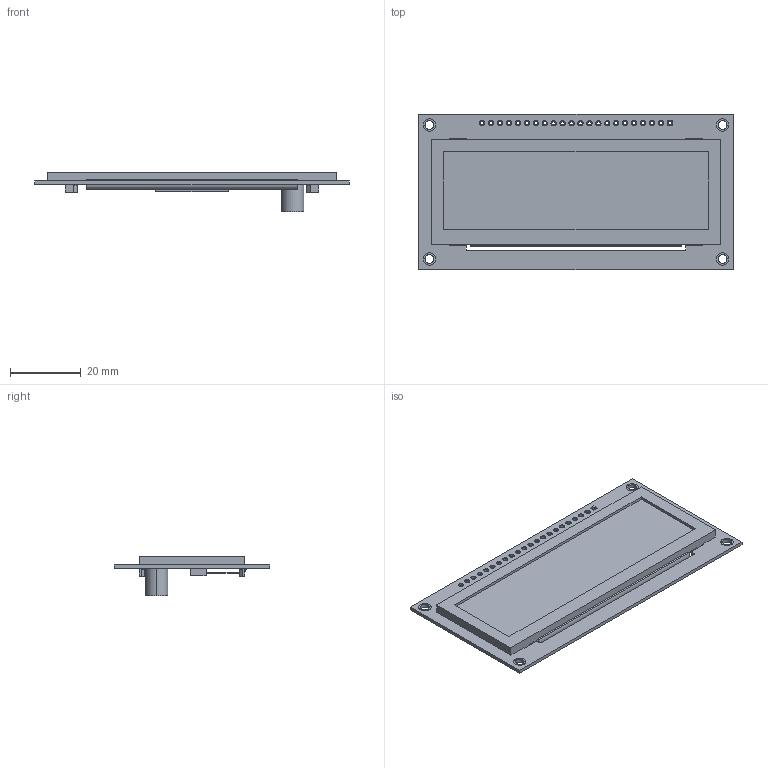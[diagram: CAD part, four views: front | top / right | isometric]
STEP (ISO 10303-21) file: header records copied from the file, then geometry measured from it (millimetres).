
FILE_DESCRIPTION (( 'STEP AP214' ), '1' );
FILE_NAME ('NHD-3.12-25664UCY3.STEP', '2017-09-07T17:09:37', ( '' ), ( '' ), 'SwSTEP 2.0', 'SolidWorks 2017', '' );
FILE_SCHEMA (( 'AUTOMOTIVE_DESIGN' ));
Length unit declared in the file: millimetre
Products named in the file (1): NHD-3.12-25664UCY3
Bounding box: 89.2 x 44 x 11.25 mm (x, y, z)
Volume: 9160.1 mm3; surface area: 10441.3 mm2
Topology: 1 solids, 1 shells, 300 faces, 722 edges, 476 vertices
Faces by surface type: cylinder 156, plane 141, bspline 3
Entity records: 12270 total; most frequent: DIRECTION 1624, CARTESIAN_POINT 1550, ORIENTED_EDGE 1444, EDGE_CURVE 722, AXIS2_PLACEMENT_3D 610, VERTEX_POINT 476, EDGE_LOOP 412, VECTOR 404
